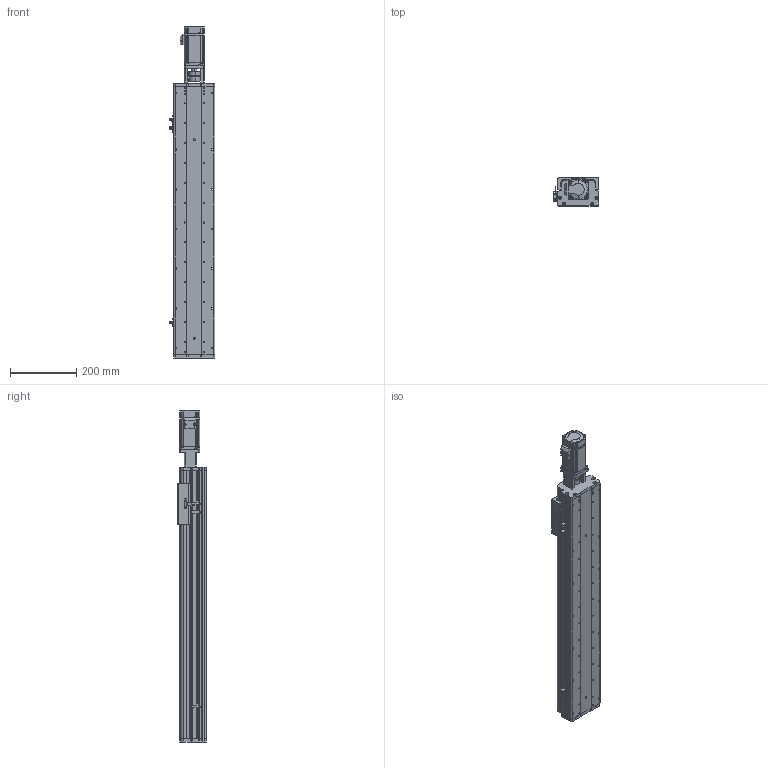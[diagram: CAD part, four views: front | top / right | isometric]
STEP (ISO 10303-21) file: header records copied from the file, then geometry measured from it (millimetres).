
FILE_DESCRIPTION (( 'STEP AP214' ), '1' );
FILE_NAME ('KSD125S-S600-MT-CM.STEP', '2017-08-07T06:44:10', ( '微软用户' ), ( '微软中国' ), 'SwSTEP 2.0', 'SolidWorks 2014', '' );
FILE_SCHEMA (( 'AUTOMOTIVE_DESIGN' ));
Length unit declared in the file: millimetre
Products named in the file (13): KSD125S-600俴最佪裝滅鳥裔; MHMD042G1CA_2_03; 100遵鎮湛假蚾啣1 ; 拸萇儂釱滅袉菜; 覜茼え68遵圉猾敕; U倰嫖萇假蚾璃; U倰嫖萇EEㄜSX672; ヶ傷啣-125遵耀郪; KSD125S-600俴最佪裝菁啣; KSD125-賑雄釱1; CS-34X32-10X14; 125-帣傷啣1; KSD125S-S600-MT-CM
Assembly tree (16 placements, depth 2):
  KSD125S-S600-MT-CM
    125-帣傷啣1
    CS-34X32-10X14
    KSD125-賑雄釱1
    ヶ傷啣-125遵耀郪
    U倰嫖萇EEㄜSX672  x3
    U倰嫖萇假蚾璃  x3
    覜茼え68遵圉猾敕
    拸萇儂釱滅袉菜
    100遵鎮湛假蚾啣1 
    MHMD042G1CA_2_03
    KSD125S-600俴最佪裝菁啣
    KSD125S-600俴最佪裝滅鳥裔
Bounding box: 138.7 x 86 x 1003.5 mm (x, y, z)
Volume: 2838088.5 mm3; surface area: 941421.4 mm2
Topology: 15 solids, 18 shells, 1536 faces, 4430 edges, 2915 vertices
Faces by surface type: cylinder 782, plane 641, cone 91, bspline 22
Entity records: 54139 total; most frequent: CARTESIAN_POINT 11382, DIRECTION 7764, ORIENTED_EDGE 7368, EDGE_CURVE 3762, AXIS2_PLACEMENT_3D 2867, VERTEX_POINT 2507, LINE 2030, VECTOR 2030
